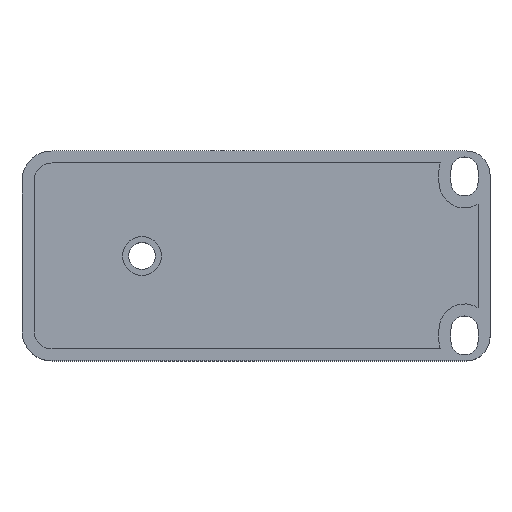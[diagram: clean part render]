
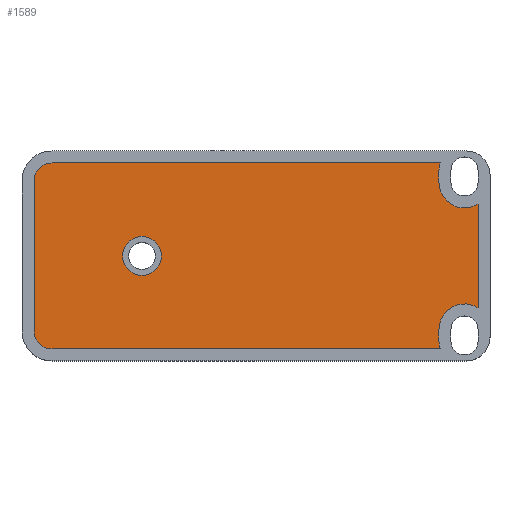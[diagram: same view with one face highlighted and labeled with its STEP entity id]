
A CAD part, top view. The second image highlights one B-rep face of the part: STEP entity #1589.
In plain terms, the highlighted planar face has unit normal (0, 0, 1).
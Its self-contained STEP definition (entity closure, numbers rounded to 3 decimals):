
#1589=ADVANCED_FACE('',(#2869,#2870),#2393,.F.);
#2393=PLANE('',#14644);
#2869=FACE_BOUND('',#3471,.T.);
#2870=FACE_BOUND('',#3472,.T.);
#3471=EDGE_LOOP('',(#5612,#5613,#5614,#5615,#5616,#5617,#5618,#5619,#5620,
#5621,#5622,#5623));
#3472=EDGE_LOOP('',(#5624));
#4471=CIRCLE('',#14470,3.);
#4473=CIRCLE('',#14473,3.);
#4516=CIRCLE('',#14554,4.25);
#4517=CIRCLE('',#14556,4.25);
#4518=CIRCLE('',#14559,4.25);
#4519=CIRCLE('',#14561,4.25);
#4531=CIRCLE('',#14643,3.25);
#5612=ORIENTED_EDGE('',*,*,#10254,.T.);
#5613=ORIENTED_EDGE('',*,*,#10419,.T.);
#5614=ORIENTED_EDGE('',*,*,#10415,.T.);
#5615=ORIENTED_EDGE('',*,*,#10418,.T.);
#5616=ORIENTED_EDGE('',*,*,#10412,.T.);
#5617=ORIENTED_EDGE('',*,*,#10424,.T.);
#5618=ORIENTED_EDGE('',*,*,#10420,.T.);
#5619=ORIENTED_EDGE('',*,*,#10423,.T.);
#5620=ORIENTED_EDGE('',*,*,#10257,.T.);
#5621=ORIENTED_EDGE('',*,*,#10248,.T.);
#5622=ORIENTED_EDGE('',*,*,#10244,.T.);
#5623=ORIENTED_EDGE('',*,*,#10251,.T.);
#5624=ORIENTED_EDGE('',*,*,#10532,.F.);
#8905=VERTEX_POINT('',#19763);
#8906=VERTEX_POINT('',#19764);
#8909=VERTEX_POINT('',#19772);
#8911=VERTEX_POINT('',#19778);
#8913=VERTEX_POINT('',#19784);
#8915=VERTEX_POINT('',#19790);
#9046=VERTEX_POINT('',#20108);
#9047=VERTEX_POINT('',#20109);
#9048=VERTEX_POINT('',#20114);
#9049=VERTEX_POINT('',#20115);
#9050=VERTEX_POINT('',#20124);
#9051=VERTEX_POINT('',#20125);
#9099=VERTEX_POINT('',#20357);
#10244=EDGE_CURVE('',#8905,#8906,#12090,.T.);
#10248=EDGE_CURVE('',#8909,#8905,#4471,.T.);
#10251=EDGE_CURVE('',#8906,#8911,#4473,.T.);
#10254=EDGE_CURVE('',#8911,#8913,#12096,.T.);
#10257=EDGE_CURVE('',#8915,#8909,#12099,.T.);
#10412=EDGE_CURVE('',#9046,#9047,#12211,.T.);
#10415=EDGE_CURVE('',#9048,#9049,#12214,.T.);
#10418=EDGE_CURVE('',#9049,#9046,#4516,.T.);
#10419=EDGE_CURVE('',#8913,#9048,#4517,.T.);
#10420=EDGE_CURVE('',#9050,#9051,#12217,.T.);
#10423=EDGE_CURVE('',#9051,#8915,#4518,.T.);
#10424=EDGE_CURVE('',#9047,#9050,#4519,.T.);
#10532=EDGE_CURVE('',#9099,#9099,#4531,.T.);
#12090=LINE('',#19762,#13229);
#12096=LINE('',#19783,#13235);
#12099=LINE('',#19789,#13238);
#12211=LINE('',#20107,#13350);
#12214=LINE('',#20113,#13353);
#12217=LINE('',#20123,#13356);
#13229=VECTOR('',#15909,1.);
#13235=VECTOR('',#15929,1.);
#13238=VECTOR('',#15934,1.);
#13350=VECTOR('',#16196,1.);
#13353=VECTOR('',#16201,1.);
#13356=VECTOR('',#16214,1.);
#14470=AXIS2_PLACEMENT_3D('',#19771,#15915,#15916);
#14473=AXIS2_PLACEMENT_3D('',#19777,#15922,#15923);
#14554=AXIS2_PLACEMENT_3D('',#20119,#16206,#16207);
#14556=AXIS2_PLACEMENT_3D('',#20121,#16210,#16211);
#14559=AXIS2_PLACEMENT_3D('',#20129,#16219,#16220);
#14561=AXIS2_PLACEMENT_3D('',#20131,#16223,#16224);
#14643=AXIS2_PLACEMENT_3D('',#20356,#16483,#16484);
#14644=AXIS2_PLACEMENT_3D('',#20358,#16485,#16486);
#15909=DIRECTION('',(0.,-1.,0.));
#15915=DIRECTION('',(0.,0.,1.));
#15916=DIRECTION('',(1.,0.,0.));
#15922=DIRECTION('',(0.,0.,1.));
#15923=DIRECTION('',(1.,0.,0.));
#15929=DIRECTION('',(1.,0.,0.));
#15934=DIRECTION('',(-1.,0.,0.));
#16196=DIRECTION('',(0.,1.,0.));
#16201=DIRECTION('',(0.,1.,0.));
#16206=DIRECTION('',(0.,0.,-1.));
#16207=DIRECTION('',(1.,0.,0.));
#16210=DIRECTION('',(0.,0.,-1.));
#16211=DIRECTION('',(1.,0.,0.));
#16214=DIRECTION('',(0.,1.,0.));
#16219=DIRECTION('',(0.,0.,-1.));
#16220=DIRECTION('',(1.,0.,0.));
#16223=DIRECTION('',(0.,0.,-1.));
#16224=DIRECTION('',(1.,0.,0.));
#16483=DIRECTION('',(0.,0.,1.));
#16484=DIRECTION('',(0.,-1.,0.));
#16485=DIRECTION('',(0.,0.,-1.));
#16486=DIRECTION('',(-1.,0.,0.));
#19762=CARTESIAN_POINT('',(79.,30.,15.8));
#19763=CARTESIAN_POINT('',(79.,30.,15.8));
#19764=CARTESIAN_POINT('',(79.,5.,15.8));
#19771=CARTESIAN_POINT('',(82.,30.,15.8));
#19772=CARTESIAN_POINT('',(82.,33.,15.8));
#19777=CARTESIAN_POINT('',(82.,5.,15.8));
#19778=CARTESIAN_POINT('',(82.,2.,15.8));
#19783=CARTESIAN_POINT('',(82.,2.,15.8));
#19784=CARTESIAN_POINT('',(146.688,2.,15.8));
#19789=CARTESIAN_POINT('',(146.688,33.,15.8));
#19790=CARTESIAN_POINT('',(146.688,33.,15.8));
#20107=CARTESIAN_POINT('',(153.,8.856,15.8));
#20108=CARTESIAN_POINT('',(153.,8.856,15.8));
#20109=CARTESIAN_POINT('',(153.,26.144,15.8));
#20113=CARTESIAN_POINT('',(146.5,3.25,15.8));
#20114=CARTESIAN_POINT('',(146.5,3.25,15.8));
#20115=CARTESIAN_POINT('',(146.5,5.25,15.8));
#20119=CARTESIAN_POINT('',(150.75,5.25,15.8));
#20121=CARTESIAN_POINT('',(150.75,3.25,15.8));
#20123=CARTESIAN_POINT('',(146.5,29.75,15.8));
#20124=CARTESIAN_POINT('',(146.5,29.75,15.8));
#20125=CARTESIAN_POINT('',(146.5,31.75,15.8));
#20129=CARTESIAN_POINT('',(150.75,31.75,15.8));
#20131=CARTESIAN_POINT('',(150.75,29.75,15.8));
#20356=CARTESIAN_POINT('',(97.,17.5,15.8));
#20357=CARTESIAN_POINT('',(97.,14.25,15.8));
#20358=CARTESIAN_POINT('',(150.75,3.25,15.8));
